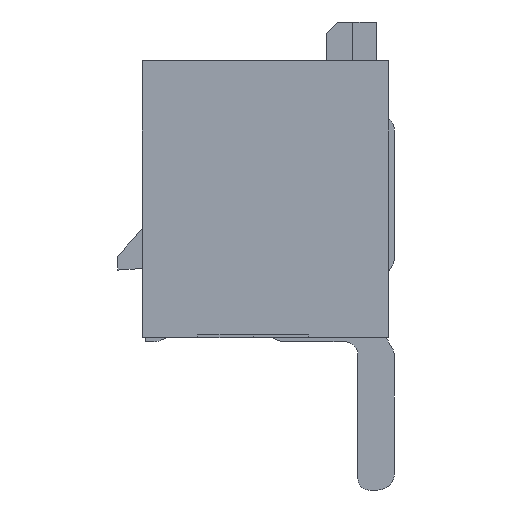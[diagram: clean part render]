
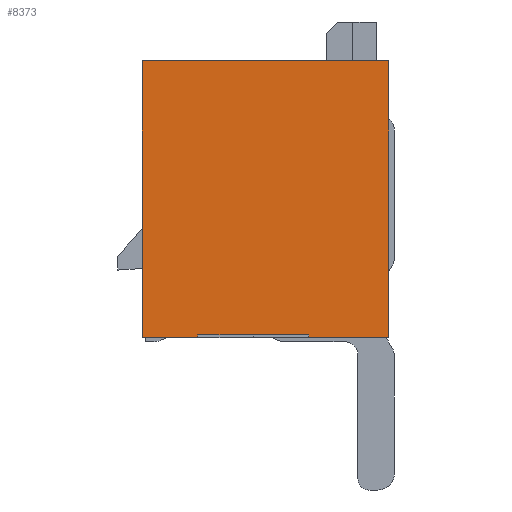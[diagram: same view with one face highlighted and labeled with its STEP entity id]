
A CAD part, left-side view. The second image highlights one B-rep face of the part: STEP entity #8373.
In plain terms, the highlighted planar face has unit normal (-1, 0, 0).
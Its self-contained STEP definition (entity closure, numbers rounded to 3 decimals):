
#68 = VECTOR ( 'NONE', #9627, 1000. ) ;
#89 = EDGE_CURVE ( 'NONE', #1499, #1777, #1214, .T. ) ;
#348 = CARTESIAN_POINT ( 'NONE',  ( -10.3, -4.45, 2.398 ) ) ;
#643 = LINE ( 'NONE', #11362, #12086 ) ;
#676 = LINE ( 'NONE', #733, #5799 ) ;
#708 = CARTESIAN_POINT ( 'NONE',  ( -10.3, 0., 2.398 ) ) ;
#733 = CARTESIAN_POINT ( 'NONE',  ( -10.3, -3., 4.621 ) ) ;
#992 = CARTESIAN_POINT ( 'NONE',  ( -10.3, -4.45, 2.398 ) ) ;
#993 = CARTESIAN_POINT ( 'NONE',  ( -10.3, -4.45, 2.398 ) ) ;
#1028 = VERTEX_POINT ( 'NONE', #708 ) ;
#1116 = EDGE_CURVE ( 'NONE', #7150, #2979, #7657, .T. ) ;
#1119 = LINE ( 'NONE', #348, #2215 ) ;
#1182 = VECTOR ( 'NONE', #4548, 1000. ) ;
#1214 = LINE ( 'NONE', #8924, #11957 ) ;
#1376 = EDGE_CURVE ( 'NONE', #7150, #12249, #8783, .T. ) ;
#1499 = VERTEX_POINT ( 'NONE', #9868 ) ;
#1777 = VERTEX_POINT ( 'NONE', #5581 ) ;
#2215 = VECTOR ( 'NONE', #9031, 1000. ) ;
#2472 = FACE_OUTER_BOUND ( 'NONE', #6590, .T. ) ;
#2533 = DIRECTION ( 'NONE',  ( 0., 1., 0. ) ) ;
#2745 = DIRECTION ( 'NONE',  ( 0., 1., 0. ) ) ;
#2803 = CARTESIAN_POINT ( 'NONE',  ( -10.3, 0., 8.098 ) ) ;
#2851 = CARTESIAN_POINT ( 'NONE',  ( -10.3, 0., 7.398 ) ) ;
#2979 = VERTEX_POINT ( 'NONE', #993 ) ;
#3144 = EDGE_CURVE ( 'NONE', #2979, #8157, #1119, .T. ) ;
#3757 = DIRECTION ( 'NONE',  ( 0., 1., 0. ) ) ;
#3973 = ORIENTED_EDGE ( 'NONE', *, *, #3144, .F. ) ;
#4022 = ORIENTED_EDGE ( 'NONE', *, *, #89, .F. ) ;
#4214 = DIRECTION ( 'NONE',  ( 0., 0., -1. ) ) ;
#4548 = DIRECTION ( 'NONE',  ( 0., 0., -1. ) ) ;
#5581 = CARTESIAN_POINT ( 'NONE',  ( -10.3, -1., 2.398 ) ) ;
#5799 = VECTOR ( 'NONE', #12166, 1000. ) ;
#6470 = CARTESIAN_POINT ( 'NONE',  ( -10.3, -2.455, 5.15 ) ) ;
#6590 = EDGE_LOOP ( 'NONE', ( #10217, #4022, #11327, #10313, #3973, #11367, #10098, #8276 ) ) ;
#7150 = VERTEX_POINT ( 'NONE', #11375 ) ;
#7561 = EDGE_CURVE ( 'NONE', #11385, #1499, #643, .T. ) ;
#7657 = LINE ( 'NONE', #11552, #1182 ) ;
#7745 = EDGE_CURVE ( 'NONE', #1028, #12249, #7966, .T. ) ;
#7966 = LINE ( 'NONE', #2803, #68 ) ;
#8157 = VERTEX_POINT ( 'NONE', #10756 ) ;
#8276 = ORIENTED_EDGE ( 'NONE', *, *, #7745, .F. ) ;
#8373 = ADVANCED_FACE ( 'NONE', ( #2472 ), #12234, .F. ) ;
#8420 = EDGE_CURVE ( 'NONE', #11385, #8157, #676, .T. ) ;
#8450 = DIRECTION ( 'NONE',  ( 1., 0., 0. ) ) ;
#8584 = LINE ( 'NONE', #992, #12272 ) ;
#8783 = LINE ( 'NONE', #11663, #11784 ) ;
#8924 = CARTESIAN_POINT ( 'NONE',  ( -10.3, -1., 4.621 ) ) ;
#9031 = DIRECTION ( 'NONE',  ( 0., 1., 0. ) ) ;
#9627 = DIRECTION ( 'NONE',  ( 0., 0., 1. ) ) ;
#9868 = CARTESIAN_POINT ( 'NONE',  ( -10.3, -1., 2.448 ) ) ;
#10098 = ORIENTED_EDGE ( 'NONE', *, *, #1376, .T. ) ;
#10103 = CARTESIAN_POINT ( 'NONE',  ( -10.3, -3., 2.448 ) ) ;
#10217 = ORIENTED_EDGE ( 'NONE', *, *, #12263, .F. ) ;
#10313 = ORIENTED_EDGE ( 'NONE', *, *, #8420, .T. ) ;
#10756 = CARTESIAN_POINT ( 'NONE',  ( -10.3, -3., 2.398 ) ) ;
#11314 = AXIS2_PLACEMENT_3D ( 'NONE', #6470, #8450, #2533 ) ;
#11327 = ORIENTED_EDGE ( 'NONE', *, *, #7561, .F. ) ;
#11362 = CARTESIAN_POINT ( 'NONE',  ( -10.3, -3., 2.448 ) ) ;
#11367 = ORIENTED_EDGE ( 'NONE', *, *, #1116, .F. ) ;
#11375 = CARTESIAN_POINT ( 'NONE',  ( -10.3, -4.45, 7.398 ) ) ;
#11385 = VERTEX_POINT ( 'NONE', #10103 ) ;
#11552 = CARTESIAN_POINT ( 'NONE',  ( -10.3, -4.45, 8.098 ) ) ;
#11663 = CARTESIAN_POINT ( 'NONE',  ( -10.3, -3.32, 7.398 ) ) ;
#11784 = VECTOR ( 'NONE', #3757, 1000. ) ;
#11957 = VECTOR ( 'NONE', #4214, 1000. ) ;
#12086 = VECTOR ( 'NONE', #2745, 1000. ) ;
#12166 = DIRECTION ( 'NONE',  ( 0., 0., -1. ) ) ;
#12234 = PLANE ( 'NONE',  #11314 ) ;
#12249 = VERTEX_POINT ( 'NONE', #2851 ) ;
#12263 = EDGE_CURVE ( 'NONE', #1777, #1028, #8584, .T. ) ;
#12272 = VECTOR ( 'NONE', #12607, 1000. ) ;
#12607 = DIRECTION ( 'NONE',  ( 0., 1., 0. ) ) ;
